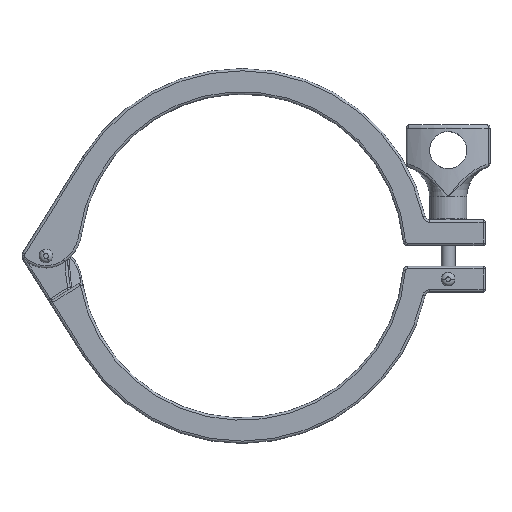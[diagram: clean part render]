
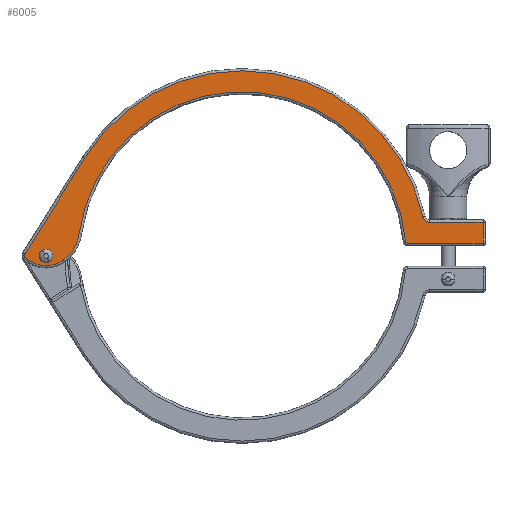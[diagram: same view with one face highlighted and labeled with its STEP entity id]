
A CAD part, top view. The second image highlights one B-rep face of the part: STEP entity #6005.
In plain terms, the highlighted planar face has unit normal (0, 0, 1).
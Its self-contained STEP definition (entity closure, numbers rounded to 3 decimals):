
#26 = EDGE_LOOP ( 'NONE', ( #12984, #4106 ) ) ;
#57 = CARTESIAN_POINT ( 'NONE',  ( -82.045, 0., 9. ) ) ;
#145 = ORIENTED_EDGE ( 'NONE', *, *, #4618, .T. ) ;
#183 = ORIENTED_EDGE ( 'NONE', *, *, #2114, .T. ) ;
#308 = VERTEX_POINT ( 'NONE', #6507 ) ;
#502 = DIRECTION ( 'NONE',  ( 0., 0., 1. ) ) ;
#582 = CARTESIAN_POINT ( 'NONE',  ( 70.359, 6.409, 9. ) ) ;
#846 = CIRCLE ( 'NONE', #9977, 2.25 ) ;
#926 = CARTESIAN_POINT ( 'NONE',  ( 0., 0., 9. ) ) ;
#1086 = EDGE_CURVE ( 'NONE', #3750, #308, #3632, .T. ) ;
#1348 = CARTESIAN_POINT ( 'NONE',  ( -92.604, 0.221, 9. ) ) ;
#1373 = CIRCLE ( 'NONE', #6854, 70.65 ) ;
#1395 = DIRECTION ( 'NONE',  ( 1., 0., 0. ) ) ;
#1425 = ORIENTED_EDGE ( 'NONE', *, *, #10236, .T. ) ;
#1526 = DIRECTION ( 'NONE',  ( 1., 0., 0. ) ) ;
#1542 = CARTESIAN_POINT ( 'NONE',  ( 80.776, 14.5, 9. ) ) ;
#1570 = DIRECTION ( 'NONE',  ( 1., 0., 0. ) ) ;
#1661 = ORIENTED_EDGE ( 'NONE', *, *, #7959, .T. ) ;
#1717 = DIRECTION ( 'NONE',  ( 0., 0., 1. ) ) ;
#1751 = VERTEX_POINT ( 'NONE', #57 ) ;
#1764 = CARTESIAN_POINT ( 'NONE',  ( 0., 0., 9. ) ) ;
#1804 = CARTESIAN_POINT ( 'NONE',  ( -70.003, 9.541, 9. ) ) ;
#1938 = DIRECTION ( 'NONE',  ( -1., 0., 0. ) ) ;
#2032 = EDGE_CURVE ( 'NONE', #2183, #3262, #1373, .T. ) ;
#2049 = DIRECTION ( 'NONE',  ( 0., 0., -1. ) ) ;
#2105 = VECTOR ( 'NONE', #5501, 1000. ) ;
#2114 = EDGE_CURVE ( 'NONE', #9141, #2183, #8662, .T. ) ;
#2183 = VERTEX_POINT ( 'NONE', #1804 ) ;
#2441 = LINE ( 'NONE', #10655, #2105 ) ;
#2634 = CARTESIAN_POINT ( 'NONE',  ( -86.545, 0., 9. ) ) ;
#2690 = VECTOR ( 'NONE', #13221, 1000. ) ;
#2940 = VERTEX_POINT ( 'NONE', #5323 ) ;
#3220 = CARTESIAN_POINT ( 'NONE',  ( 103.705, 5.5, 9. ) ) ;
#3236 = DIRECTION ( 'NONE',  ( 0., 0., 1. ) ) ;
#3262 = VERTEX_POINT ( 'NONE', #582 ) ;
#3312 = EDGE_CURVE ( 'NONE', #8299, #1751, #846, .T. ) ;
#3523 = VECTOR ( 'NONE', #1938, 1000. ) ;
#3543 = AXIS2_PLACEMENT_3D ( 'NONE', #5805, #9993, #5681 ) ;
#3606 = DIRECTION ( 'NONE',  ( 0., 0., -1. ) ) ;
#3632 = CIRCLE ( 'NONE', #7662, 3. ) ;
#3727 = DIRECTION ( 'NONE',  ( 0., 0., -1. ) ) ;
#3750 = VERTEX_POINT ( 'NONE', #1542 ) ;
#3852 = LINE ( 'NONE', #8236, #3523 ) ;
#4084 = EDGE_CURVE ( 'NONE', #12585, #9141, #10133, .T. ) ;
#4106 = ORIENTED_EDGE ( 'NONE', *, *, #5041, .T. ) ;
#4238 = EDGE_CURVE ( 'NONE', #2940, #3750, #3852, .T. ) ;
#4325 = VERTEX_POINT ( 'NONE', #5360 ) ;
#4394 = CARTESIAN_POINT ( 'NONE',  ( -76.685, -1.68, 9. ) ) ;
#4618 = EDGE_CURVE ( 'NONE', #10626, #9216, #11651, .T. ) ;
#4686 = CARTESIAN_POINT ( 'NONE',  ( -84.295, 0., 9. ) ) ;
#4757 = CIRCLE ( 'NONE', #8756, 1. ) ;
#4988 = DIRECTION ( 'NONE',  ( 1., 0., 0. ) ) ;
#5041 = EDGE_CURVE ( 'NONE', #1751, #8299, #9143, .T. ) ;
#5293 = AXIS2_PLACEMENT_3D ( 'NONE', #1764, #1717, #4988 ) ;
#5323 = CARTESIAN_POINT ( 'NONE',  ( 103.705, 14.5, 9. ) ) ;
#5360 = CARTESIAN_POINT ( 'NONE',  ( -93.452, 0.751, 9. ) ) ;
#5491 = DIRECTION ( 'NONE',  ( 0., 0., -1. ) ) ;
#5501 = DIRECTION ( 'NONE',  ( 0., 1., 0. ) ) ;
#5681 = DIRECTION ( 'NONE',  ( 1., 0., 0. ) ) ;
#5805 = CARTESIAN_POINT ( 'NONE',  ( -84.295, 8.713, 9. ) ) ;
#5889 = CARTESIAN_POINT ( 'NONE',  ( -86.553, 11.797, 9. ) ) ;
#6005 = ADVANCED_FACE ( 'NONE', ( #11801, #7312 ), #11148, .T. ) ;
#6225 = VERTEX_POINT ( 'NONE', #11984 ) ;
#6280 = CARTESIAN_POINT ( 'NONE',  ( -86.553, 11.797, 9. ) ) ;
#6414 = DIRECTION ( 'NONE',  ( 1., 0., 0. ) ) ;
#6417 = CARTESIAN_POINT ( 'NONE',  ( 71.355, 5.5, 9. ) ) ;
#6507 = CARTESIAN_POINT ( 'NONE',  ( 77.844, 16.865, 9. ) ) ;
#6621 = DIRECTION ( 'NONE',  ( 1., 0., 0. ) ) ;
#6854 = AXIS2_PLACEMENT_3D ( 'NONE', #926, #2049, #12648 ) ;
#6925 = CIRCLE ( 'NONE', #9639, 1. ) ;
#7065 = ORIENTED_EDGE ( 'NONE', *, *, #2032, .T. ) ;
#7228 = EDGE_CURVE ( 'NONE', #308, #8532, #10268, .T. ) ;
#7274 = CARTESIAN_POINT ( 'NONE',  ( -92.604, 0.221, 9. ) ) ;
#7312 = FACE_BOUND ( 'NONE', #26, .T. ) ;
#7662 = AXIS2_PLACEMENT_3D ( 'NONE', #8650, #5491, #6621 ) ;
#7687 = DIRECTION ( 'NONE',  ( -0.53, -0.848, 0. ) ) ;
#7883 = AXIS2_PLACEMENT_3D ( 'NONE', #1348, #12982, #10840 ) ;
#7959 = EDGE_CURVE ( 'NONE', #6225, #12585, #6925, .T. ) ;
#8004 = CARTESIAN_POINT ( 'NONE',  ( 71.355, 6.5, 9. ) ) ;
#8027 = EDGE_LOOP ( 'NONE', ( #145, #10507, #10032, #8850, #12996, #9706, #9758, #1661, #9980, #183, #7065, #1425 ) ) ;
#8185 = EDGE_CURVE ( 'NONE', #8532, #4325, #9891, .T. ) ;
#8236 = CARTESIAN_POINT ( 'NONE',  ( 80.776, 14.5, 9. ) ) ;
#8299 = VERTEX_POINT ( 'NONE', #2634 ) ;
#8526 = CIRCLE ( 'NONE', #7883, 1. ) ;
#8532 = VERTEX_POINT ( 'NONE', #10316 ) ;
#8650 = CARTESIAN_POINT ( 'NONE',  ( 80.776, 17.5, 9. ) ) ;
#8662 = CIRCLE ( 'NONE', #13289, 16.703 ) ;
#8756 = AXIS2_PLACEMENT_3D ( 'NONE', #8004, #9038, #1526 ) ;
#8850 = ORIENTED_EDGE ( 'NONE', *, *, #1086, .T. ) ;
#9038 = DIRECTION ( 'NONE',  ( 0., 0., 1. ) ) ;
#9141 = VERTEX_POINT ( 'NONE', #4394 ) ;
#9143 = CIRCLE ( 'NONE', #13099, 2.25 ) ;
#9173 = EDGE_CURVE ( 'NONE', #9216, #2940, #2441, .T. ) ;
#9216 = VERTEX_POINT ( 'NONE', #3220 ) ;
#9639 = AXIS2_PLACEMENT_3D ( 'NONE', #7274, #10505, #12681 ) ;
#9686 = AXIS2_PLACEMENT_3D ( 'NONE', #6280, #3236, #6414 ) ;
#9706 = ORIENTED_EDGE ( 'NONE', *, *, #8185, .T. ) ;
#9758 = ORIENTED_EDGE ( 'NONE', *, *, #11382, .T. ) ;
#9891 = LINE ( 'NONE', #11825, #13607 ) ;
#9977 = AXIS2_PLACEMENT_3D ( 'NONE', #10042, #3727, #10149 ) ;
#9980 = ORIENTED_EDGE ( 'NONE', *, *, #4084, .T. ) ;
#9993 = DIRECTION ( 'NONE',  ( 0., 0., 1. ) ) ;
#10032 = ORIENTED_EDGE ( 'NONE', *, *, #4238, .T. ) ;
#10042 = CARTESIAN_POINT ( 'NONE',  ( -84.295, 0., 9. ) ) ;
#10133 = CIRCLE ( 'NONE', #3543, 12.881 ) ;
#10149 = DIRECTION ( 'NONE',  ( 1., 0., 0. ) ) ;
#10236 = EDGE_CURVE ( 'NONE', #3262, #10626, #4757, .T. ) ;
#10268 = CIRCLE ( 'NONE', #5293, 79.65 ) ;
#10316 = CARTESIAN_POINT ( 'NONE',  ( -67.547, 42.208, 9. ) ) ;
#10505 = DIRECTION ( 'NONE',  ( 0., 0., 1. ) ) ;
#10507 = ORIENTED_EDGE ( 'NONE', *, *, #9173, .T. ) ;
#10626 = VERTEX_POINT ( 'NONE', #6417 ) ;
#10655 = CARTESIAN_POINT ( 'NONE',  ( 103.705, 15.5, 9. ) ) ;
#10840 = DIRECTION ( 'NONE',  ( 1., 0., 0. ) ) ;
#11148 = PLANE ( 'NONE',  #9686 ) ;
#11382 = EDGE_CURVE ( 'NONE', #4325, #6225, #8526, .T. ) ;
#11651 = LINE ( 'NONE', #12287, #2690 ) ;
#11801 = FACE_OUTER_BOUND ( 'NONE', #8027, .T. ) ;
#11825 = CARTESIAN_POINT ( 'NONE',  ( -93.452, 0.751, 9. ) ) ;
#11984 = CARTESIAN_POINT ( 'NONE',  ( -93.604, 0.221, 9. ) ) ;
#12287 = CARTESIAN_POINT ( 'NONE',  ( 104.705, 5.5, 9. ) ) ;
#12334 = CARTESIAN_POINT ( 'NONE',  ( -93.304, -0.494, 9. ) ) ;
#12585 = VERTEX_POINT ( 'NONE', #12334 ) ;
#12648 = DIRECTION ( 'NONE',  ( 1., 0., 0. ) ) ;
#12681 = DIRECTION ( 'NONE',  ( 1., 0., 0. ) ) ;
#12982 = DIRECTION ( 'NONE',  ( 0., 0., 1. ) ) ;
#12984 = ORIENTED_EDGE ( 'NONE', *, *, #3312, .T. ) ;
#12996 = ORIENTED_EDGE ( 'NONE', *, *, #7228, .T. ) ;
#13099 = AXIS2_PLACEMENT_3D ( 'NONE', #4686, #3606, #1395 ) ;
#13221 = DIRECTION ( 'NONE',  ( 1., 0., 0. ) ) ;
#13289 = AXIS2_PLACEMENT_3D ( 'NONE', #5889, #502, #1570 ) ;
#13607 = VECTOR ( 'NONE', #7687, 1000. ) ;
